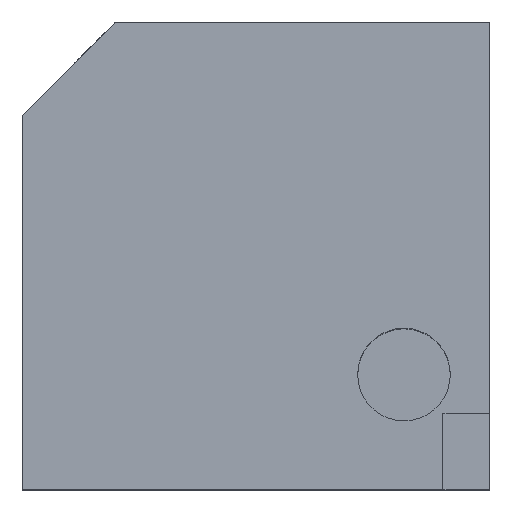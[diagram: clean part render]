
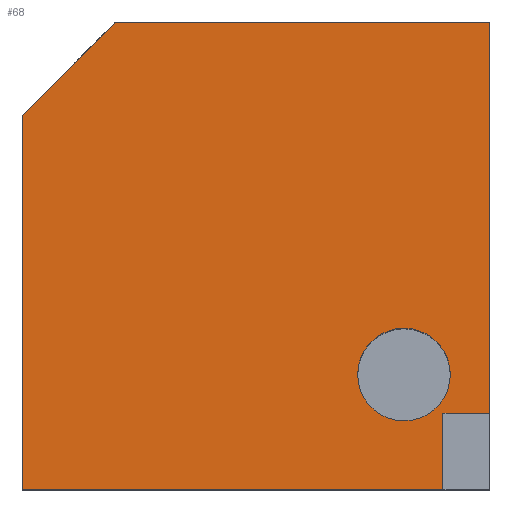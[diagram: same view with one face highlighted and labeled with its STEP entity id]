
A CAD part, top view. The second image highlights one B-rep face of the part: STEP entity #68.
In plain terms, the highlighted planar face has unit normal (0, 0, 1).
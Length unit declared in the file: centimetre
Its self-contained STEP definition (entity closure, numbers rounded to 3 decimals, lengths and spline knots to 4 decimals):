
#21 = VECTOR ( 'NONE', #1021, 100. ) ;
#27 = CARTESIAN_POINT ( 'NONE',  ( 899.9646, 163.2129, 1000. ) ) ;
#68 = ADVANCED_FACE ( 'NONE', ( #345, #763 ), #676, .T. ) ;
#93 = EDGE_CURVE ( 'NONE', #189, #898, #1038, .T. ) ;
#102 = DIRECTION ( 'NONE',  ( -1., 0., 0. ) ) ;
#109 = CARTESIAN_POINT ( 'NONE',  ( 899.9646, 163.2129, 1000. ) ) ;
#110 = LINE ( 'NONE', #457, #822 ) ;
#138 = LINE ( 'NONE', #989, #404 ) ;
#143 = DIRECTION ( 'NONE',  ( 1., 0., 0. ) ) ;
#145 = EDGE_CURVE ( 'NONE', #472, #189, #194, .T. ) ;
#150 = EDGE_CURVE ( 'NONE', #992, #309, #780, .T. ) ;
#171 = CIRCLE ( 'NONE', #675, 99.0749 ) ;
#189 = VERTEX_POINT ( 'NONE', #27 ) ;
#194 = LINE ( 'NONE', #109, #1112 ) ;
#216 = ORIENTED_EDGE ( 'NONE', *, *, #531, .T. ) ;
#247 = DIRECTION ( 'NONE',  ( 0., -1., 0. ) ) ;
#261 = EDGE_CURVE ( 'NONE', #1040, #714, #171, .T. ) ;
#263 = CARTESIAN_POINT ( 'NONE',  ( 899.9646, 0., 1000. ) ) ;
#272 = CARTESIAN_POINT ( 'NONE',  ( 717.4987, 245.7632, 1000. ) ) ;
#284 = ORIENTED_EDGE ( 'NONE', *, *, #934, .F. ) ;
#309 = VERTEX_POINT ( 'NONE', #1098 ) ;
#321 = CARTESIAN_POINT ( 'NONE',  ( 899.9646, 0., 1000. ) ) ;
#345 = FACE_BOUND ( 'NONE', #954, .T. ) ;
#395 = LINE ( 'NONE', #1095, #685 ) ;
#398 = AXIS2_PLACEMENT_3D ( 'NONE', #1028, #595, #1022 ) ;
#404 = VECTOR ( 'NONE', #811, 100. ) ;
#411 = DIRECTION ( 'NONE',  ( 0., 0., 1. ) ) ;
#435 = CIRCLE ( 'NONE', #1086, 99.0749 ) ;
#454 = CARTESIAN_POINT ( 'NONE',  ( 0., 0., 1000. ) ) ;
#455 = DIRECTION ( 'NONE',  ( -1., 0., 0. ) ) ;
#457 = CARTESIAN_POINT ( 'NONE',  ( 0., 1000., 1000. ) ) ;
#471 = ORIENTED_EDGE ( 'NONE', *, *, #93, .F. ) ;
#472 = VERTEX_POINT ( 'NONE', #1030 ) ;
#503 = CARTESIAN_POINT ( 'NONE',  ( 0., 801.0027, 1000. ) ) ;
#528 = ORIENTED_EDGE ( 'NONE', *, *, #661, .T. ) ;
#531 = EDGE_CURVE ( 'NONE', #830, #898, #138, .T. ) ;
#574 = CARTESIAN_POINT ( 'NONE',  ( 816.5736, 245.7632, 1000. ) ) ;
#595 = DIRECTION ( 'NONE',  ( 0., 0., 1. ) ) ;
#646 = DIRECTION ( 'NONE',  ( 0., 0., 1. ) ) ;
#652 = LINE ( 'NONE', #928, #21 ) ;
#653 = DIRECTION ( 'NONE',  ( -0.707, -0.707, 0. ) ) ;
#661 = EDGE_CURVE ( 'NONE', #1078, #830, #110, .T. ) ;
#665 = CARTESIAN_POINT ( 'NONE',  ( 816.5736, 245.7632, 1000. ) ) ;
#675 = AXIS2_PLACEMENT_3D ( 'NONE', #665, #646, #143 ) ;
#676 = PLANE ( 'NONE',  #398 ) ;
#685 = VECTOR ( 'NONE', #653, 100. ) ;
#704 = EDGE_CURVE ( 'NONE', #309, #1078, #395, .T. ) ;
#714 = VERTEX_POINT ( 'NONE', #920 ) ;
#736 = ORIENTED_EDGE ( 'NONE', *, *, #145, .F. ) ;
#749 = CARTESIAN_POINT ( 'NONE',  ( 1000., 1000., 1000. ) ) ;
#763 = FACE_OUTER_BOUND ( 'NONE', #1091, .T. ) ;
#780 = LINE ( 'NONE', #974, #1074 ) ;
#804 = DIRECTION ( 'NONE',  ( 0., -1., 0. ) ) ;
#811 = DIRECTION ( 'NONE',  ( 1., 0., 0. ) ) ;
#813 = VECTOR ( 'NONE', #247, 100. ) ;
#822 = VECTOR ( 'NONE', #804, 100. ) ;
#830 = VERTEX_POINT ( 'NONE', #454 ) ;
#876 = EDGE_CURVE ( 'NONE', #472, #992, #652, .T. ) ;
#898 = VERTEX_POINT ( 'NONE', #321 ) ;
#919 = DIRECTION ( 'NONE',  ( 1., 0., 0. ) ) ;
#920 = CARTESIAN_POINT ( 'NONE',  ( 915.6485, 245.7632, 1000. ) ) ;
#928 = CARTESIAN_POINT ( 'NONE',  ( 1000., 1000., 1000. ) ) ;
#934 = EDGE_CURVE ( 'NONE', #714, #1040, #435, .T. ) ;
#954 = EDGE_LOOP ( 'NONE', ( #284, #1132 ) ) ;
#974 = CARTESIAN_POINT ( 'NONE',  ( 0., 1000., 1000. ) ) ;
#985 = ORIENTED_EDGE ( 'NONE', *, *, #150, .T. ) ;
#989 = CARTESIAN_POINT ( 'NONE',  ( 0., 0., 1000. ) ) ;
#992 = VERTEX_POINT ( 'NONE', #749 ) ;
#1021 = DIRECTION ( 'NONE',  ( 0., 1., 0. ) ) ;
#1022 = DIRECTION ( 'NONE',  ( 1., 0., 0. ) ) ;
#1028 = CARTESIAN_POINT ( 'NONE',  ( 0., 0., 1000. ) ) ;
#1030 = CARTESIAN_POINT ( 'NONE',  ( 1000., 163.2129, 1000. ) ) ;
#1038 = LINE ( 'NONE', #263, #813 ) ;
#1040 = VERTEX_POINT ( 'NONE', #272 ) ;
#1045 = ORIENTED_EDGE ( 'NONE', *, *, #704, .T. ) ;
#1061 = ORIENTED_EDGE ( 'NONE', *, *, #876, .T. ) ;
#1074 = VECTOR ( 'NONE', #102, 100. ) ;
#1078 = VERTEX_POINT ( 'NONE', #503 ) ;
#1086 = AXIS2_PLACEMENT_3D ( 'NONE', #574, #411, #919 ) ;
#1091 = EDGE_LOOP ( 'NONE', ( #471, #736, #1061, #985, #1045, #528, #216 ) ) ;
#1095 = CARTESIAN_POINT ( 'NONE',  ( -400.5014, 400.5014, 1000. ) ) ;
#1098 = CARTESIAN_POINT ( 'NONE',  ( 198.9973, 1000., 1000. ) ) ;
#1112 = VECTOR ( 'NONE', #455, 100. ) ;
#1132 = ORIENTED_EDGE ( 'NONE', *, *, #261, .F. ) ;
